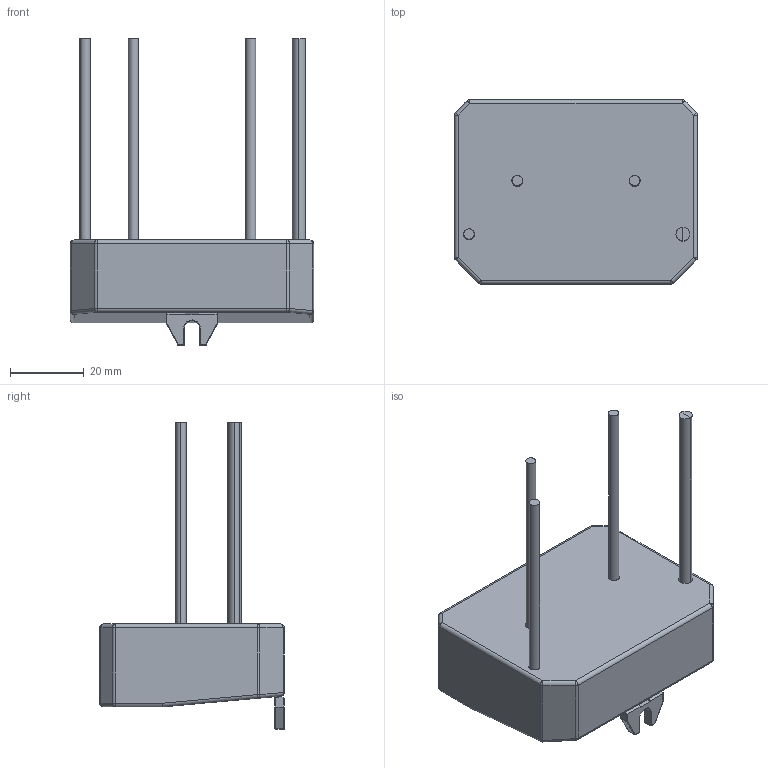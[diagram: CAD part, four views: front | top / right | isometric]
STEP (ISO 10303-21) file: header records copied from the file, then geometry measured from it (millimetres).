
FILE_DESCRIPTION (( 'STEP AP203' ), '1' );
FILE_NAME ('3D - ÜSS HSW7020 Außenkontur.STEP', '2019-08-13T13:55:02', ( '' ), ( '' ), 'SwSTEP 2.0', 'SolidWorks 2013', '' );
FILE_SCHEMA (( 'CONFIG_CONTROL_DESIGN' ));
Length unit declared in the file: millimetre
Products named in the file (1): 3D - ÜSS HSW7020 Außenkontur
Bounding box: 66 x 50 x 83.18 mm (x, y, z)
Surface area: 15653.2 mm2 (no closed solid volume)
Topology: 0 solids, 11 shells, 317 faces, 949 edges, 620 vertices
Faces by surface type: plane 154, cylinder 84, cone 31, sphere 24, bspline 20, torus 4
Entity records: 11615 total; most frequent: CARTESIAN_POINT 3165, DIRECTION 1740, ORIENTED_EDGE 1590, EDGE_CURVE 935, VECTOR 626, LINE 626, VERTEX_POINT 620, AXIS2_PLACEMENT_3D 557
